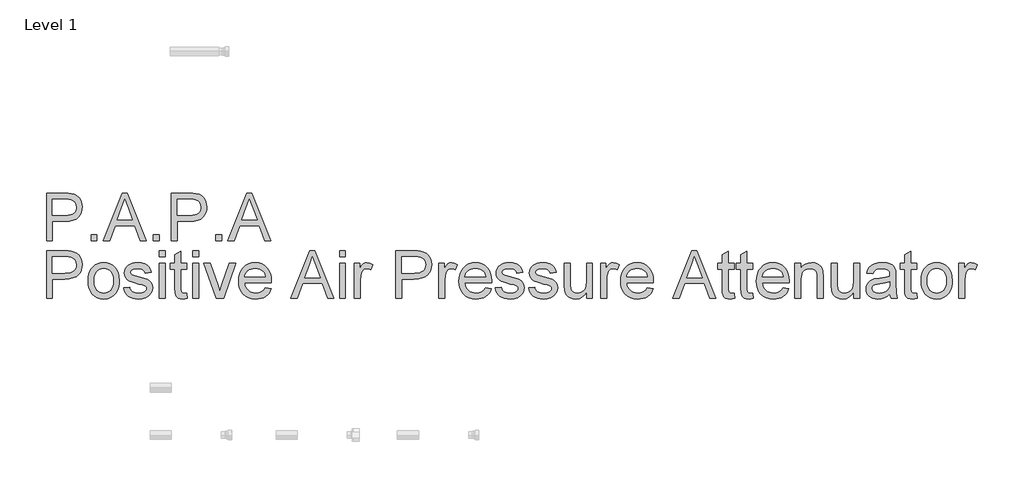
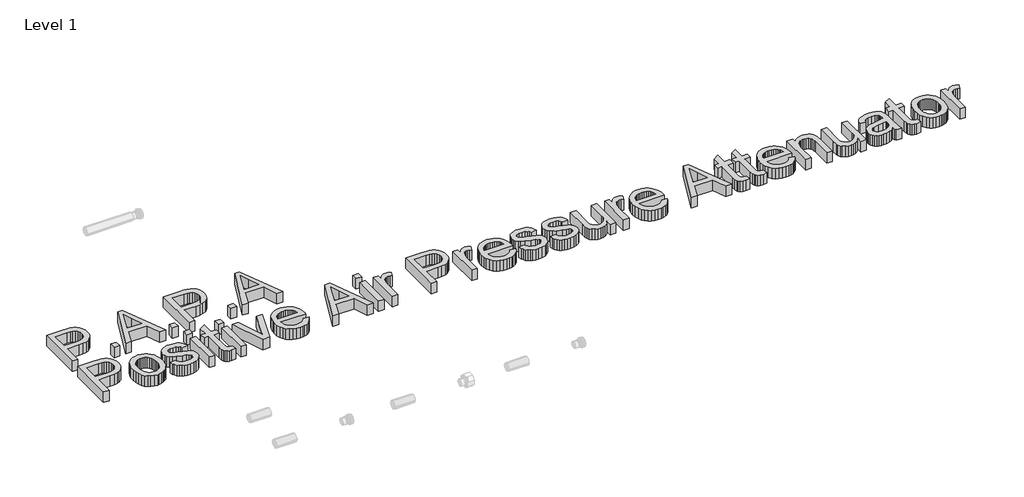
# One storey, part 25 of 29: 1 proxy.
"""IFC4 building model written with IfcOpenShell, lengths in millimetres."""

import ifcopenshell
import ifcopenshell.guid

model = None  # the IFC model being written
_history = None  # IfcOwnerHistory: only IFC2X3 demands one
_inside = {}  # id of a spatial element -> (the spatial element, [elements in it])
_under = {}  # id of a project, library or spatial element -> (it, [spatial elements below it])
_declared = {}  # id of a project -> (the project, [libraries it declares])
_typed = {}  # id of a type object -> (the type object, [elements of that type])
_made_of = {}  # id of a material, layer set ... -> (it, [elements and type objects made of it])


def new_model(schema):
    """Start an empty IFC model of exactly this schema.

    Asked for "IFC4X3", IfcOpenShell would pick the latest addendum, in which some entities
    have other attributes; the version numbers below select the first issue.
    IFC2X3 requires an IfcOwnerHistory on every rooted entity: one is made here for all.
    """
    global model, _history
    if schema == "IFC4X3":
        model = ifcopenshell.file(schema_version=(4, 3, 0, 0))
    else:
        model = ifcopenshell.file(schema=schema)
    _inside.clear()
    _under.clear()
    _declared.clear()
    _typed.clear()
    _made_of.clear()
    _history = None
    if model.schema == "IFC2X3":
        org = make("IfcOrganization", Name="unknown")
        user = make(
            "IfcPersonAndOrganization",
            ThePerson=make("IfcPerson", FamilyName="unknown"),
            TheOrganization=org,
        )
        app = make(
            "IfcApplication",
            ApplicationDeveloper=org,
            Version="unknown",
            ApplicationFullName="unknown",
            ApplicationIdentifier="unknown",
        )
        _history = make(
            "IfcOwnerHistory",
            OwningUser=user,
            OwningApplication=app,
            ChangeAction="ADDED",
            CreationDate=0,
        )
    return model


def make(cls, **values):
    """One entity of the class cls with the attributes given. An attribute that is None is left unset."""
    return model.create_entity(
        cls, **{name: value for name, value in values.items() if value is not None}
    )


def rooted(cls, **values):
    """An entity with a GlobalId (a new one), such as an element, a storey or a relation."""
    return make(cls, GlobalId=ifcopenshell.guid.new(), OwnerHistory=_history, **values)


def si_unit(unit_type, name, prefix=None):
    """IfcSIUnit, for example si_unit("LENGTHUNIT", "METRE", prefix="MILLI")."""
    return make("IfcSIUnit", UnitType=unit_type, Prefix=prefix, Name=name)


def assignment(units):
    """IfcUnitAssignment: the units of a project."""
    return None if units is None else make("IfcUnitAssignment", Units=units)


def point(xyz):
    """IfcCartesianPoint."""
    return None if xyz is None else make("IfcCartesianPoint", Coordinates=xyz)


def direction(xyz):
    """IfcDirection."""
    return None if xyz is None else make("IfcDirection", DirectionRatios=xyz)


def frame(location, z_axis=None, x_axis=None):
    """IfcAxis2Placement3D, a coordinate frame: its origin and axes. An axis left out is left unset."""
    return make(
        "IfcAxis2Placement3D",
        Location=point(location),
        Axis=direction(z_axis),
        RefDirection=direction(x_axis),
    )


def origin():
    """The frame at (0, 0, 0) with its axes left unset."""
    return frame((0.0, 0.0, 0.0))


def origin_with_axes():
    """The frame at (0, 0, 0) with the z axis (0, 0, 1) and the x axis (1, 0, 0) written out."""
    return frame((0.0, 0.0, 0.0), z_axis=(0.0, 0.0, 1.0), x_axis=(1.0, 0.0, 0.0))


def place(relative_to, where):
    """IfcLocalPlacement: puts the frame where relative to a parent placement (None: the world)."""
    return make(
        "IfcLocalPlacement", PlacementRelTo=relative_to, RelativePlacement=where
    )


def context(
    kind, dimensions, precision=None, world=None, true_north=None, identifier=None
):
    """IfcGeometricRepresentationContext, for example the 3D "Model" context."""
    return make(
        "IfcGeometricRepresentationContext",
        ContextIdentifier=identifier,
        ContextType=kind,
        CoordinateSpaceDimension=dimensions,
        Precision=precision,
        WorldCoordinateSystem=world,
        TrueNorth=true_north,
    )


def project(units=None, contexts=None):
    """IfcProject with its units and contexts."""
    return rooted(
        "IfcProject",
        Name="project",
        RepresentationContexts=contexts,
        UnitsInContext=assignment(units),
    )


def spatial(cls, under=None, at=None, **own):
    """A site, building, storey or space (cls), placed at a placement, below another one or the project."""
    s = rooted(cls, ObjectPlacement=at, **own)
    if under is not None:
        _under.setdefault(under.id(), (under, []))[1].append(s)
    return s


def polyline(points):
    """IfcPolyline through the points."""
    return make("IfcPolyline", Points=[point(p) for p in points])


def outline(outer, holes=None, kind="AREA"):
    """IfcArbitraryClosedProfileDef: a profile drawn as a closed curve; with holes, ...WithVoids."""
    if holes is None:
        return make("IfcArbitraryClosedProfileDef", ProfileType=kind, OuterCurve=outer)
    return make(
        "IfcArbitraryProfileDefWithVoids",
        ProfileType=kind,
        OuterCurve=outer,
        InnerCurves=holes,
    )


def extrude(swept, where, along, depth):
    """IfcExtrudedAreaSolid: the profile swept, set in the frame where, extruded along a direction by depth."""
    return make(
        "IfcExtrudedAreaSolid",
        SweptArea=swept,
        Position=where,
        ExtrudedDirection=direction(along),
        Depth=depth,
    )


def shape(context_of_items, identifier, shape_type, items):
    """IfcShapeRepresentation: the items that make up one representation, for example the "Body"."""
    return make(
        "IfcShapeRepresentation",
        ContextOfItems=context_of_items,
        RepresentationIdentifier=identifier,
        RepresentationType=shape_type,
        Items=items,
    )


def made_of(thing, what):
    """Note that an element or type object is made of a material, layer set ...; save() writes the relation."""
    if what is not None:
        _made_of.setdefault(what.id(), (what, []))[1].append(thing)
    return thing


def element(
    cls,
    number,
    at=None,
    inside=None,
    cuts=None,
    type_object=None,
    material=None,
    context=None,
    identifier="Body",
    shape_type=None,
    held_by="IfcProductDefinitionShape",
    body=None,
    shapes=None,
    **own,
):
    """One element of the class cls, such as IfcWall. Its Tag is "e" and its number.

    at: its placement. inside: the storey or other place that contains it. cuts: it is an
    opening in that element (IfcRelVoidsElement). A single representation is given by context,
    identifier, shape_type and body (its items); several are given by shapes. held_by: the class
    of the entity that holds the representations. save() writes the other relations.
    """
    e = rooted(cls, Tag="e%d" % number, ObjectPlacement=at, **own)
    if body is not None:
        shapes = [shape(context, identifier, shape_type, body)]
    if shapes is not None:
        e.Representation = make(held_by, Representations=shapes)
    if inside is not None:
        _inside.setdefault(inside.id(), (inside, []))[1].append(e)
    if cuts is not None:
        rooted(
            "IfcRelVoidsElement", RelatingBuildingElement=cuts, RelatedOpeningElement=e
        )
    if type_object is not None:
        _typed.setdefault(type_object.id(), (type_object, []))[1].append(e)
    return made_of(e, material)


def aggregate(whole, parts):
    """IfcRelAggregates: a whole, such as a stair, and the parts it consists of."""
    return rooted("IfcRelAggregates", RelatingObject=whole, RelatedObjects=parts)


def save(model, path):
    """Write the relations noted so far, then the file.

    IfcRelAggregates (storeys below a building ...), IfcRelContainedInSpatialStructure (elements
    in a storey), IfcRelDefinesByType, IfcRelAssociatesMaterial and IfcRelDeclares: one each for
    every whole, place, type object, material and project.
    """
    for whole, parts in _under.values():
        aggregate(whole, parts)
    for where, things in _inside.values():
        rooted(
            "IfcRelContainedInSpatialStructure",
            RelatedElements=things,
            RelatingStructure=where,
        )
    for kind, things in _typed.values():
        rooted("IfcRelDefinesByType", RelatedObjects=things, RelatingType=kind)
    for what, things in _made_of.values():
        rooted("IfcRelAssociatesMaterial", RelatedObjects=things, RelatingMaterial=what)
    for by, libraries in _declared.values():
        rooted("IfcRelDeclares", RelatingContext=by, RelatedDefinitions=libraries)
    model.write(path)


model = new_model("IFC4")

# Units and contexts
model_context = context("Model", 3, world=origin())
ifc_project = project(units=[si_unit("LENGTHUNIT", "METRE", prefix="MILLI")], contexts=[model_context])

# Site, building, storey
site = spatial("IfcSite", under=ifc_project)
building = spatial("IfcBuilding", under=site)
storey = spatial("IfcBuildingStorey", under=building, Name="Level 1", Elevation=0.0)

# Proxy
placement = place(None, origin())
element("IfcBuildingElementProxy", 1, Name="600mm Arial", ObjectType="600mm Arial", at=placement, inside=storey, context=model_context, shape_type="SweptSolid", body=[
    extrude(outline(polyline([(41857.7902081, 14103.361808), (41857.7902081, 14706.0996689), (42081.1681556, 14706.0996689), (42133.1866697, 14704.6649291), (42171.225668, 14700.3607098), (42211.3799877, 14689.6369496), (42244.434185, 14672.1809489), (42271.0504474, 14647.2017615), (42291.8909624, 14613.9084409), (42305.3554434, 14574.6370379), (42309.8436038, 14531.7236032), (42306.8131758, 14494.7238715), (42297.721892, 14460.6855899), (42282.5697523, 14429.6087584), (42261.3567568, 14401.4933769), (42232.2342983, 14378.1880525), (42193.35377, 14361.5413922), (42144.7151717, 14351.553396), (42086.3185035, 14348.224064), (41933.1324407, 14348.224064), (41933.1324407, 14103.361808), (41857.7902081, 14103.361808)]), holes=[polyline([(41933.1324407, 14423.5662966), (42090.7330874, 14423.5662966), (42126.969464, 14425.295342), (42157.5404578, 14430.4824781), (42182.4460688, 14439.127705), (42201.6862972, 14451.2310226), (42216.042892, 14466.4705343), (42226.2976027, 14484.5243432), (42232.450429, 14505.3924494), (42234.5013711, 14529.0748528), (42229.6637229, 14562.9199964), (42215.1507782, 14591.4676392), (42192.7651588, 14612.9519477), (42164.3094865, 14625.6070883), (42135.2468088, 14629.4698493), (42088.9672539, 14630.7574363), (41933.1324407, 14630.7574363), (41933.1324407, 14423.5662966)])]), origin_with_axes(), (0.0, 0.0, 1.0), 150.0),
    extrude(outline(polyline([(42422.8569527, 14103.361808), (42422.8569527, 14178.7040406), (42498.1991853, 14178.7040406), (42498.1991853, 14103.361808), (42422.8569527, 14103.361808)])), origin_with_axes(), (0.0, 0.0, 1.0), 150.0),
    extrude(outline(polyline([(42578.6917658, 14103.361808), (42819.2865907, 14706.0996689), (42883.4452106, 14706.0996689), (43124.0400355, 14103.361808), (43044.4303717, 14103.361808), (42975.4157094, 14291.7173895), (42727.1689391, 14291.7173895), (42658.3014296, 14103.361808), (42578.6917658, 14103.361808)]), holes=[polyline([(42754.8336651, 14367.0596221), (42947.8981362, 14367.0596221), (42893.5987537, 14515.2424898), (42851.3659007, 14630.7574363), (42813.8419371, 14528.191936), (42754.8336651, 14367.0596221)])]), origin_with_axes(), (0.0, 0.0, 1.0), 150.0),
    extrude(outline(polyline([(43213.9503951, 14103.361808), (43213.9503951, 14178.7040406), (43289.2926277, 14178.7040406), (43289.2926277, 14103.361808), (43213.9503951, 14103.361808)])), origin_with_axes(), (0.0, 0.0, 1.0), 150.0),
    extrude(outline(polyline([(43439.9770929, 14103.361808), (43439.9770929, 14706.0996689), (43663.3550404, 14706.0996689), (43715.3735545, 14704.6649291), (43753.4125528, 14700.3607098), (43793.5668726, 14689.6369496), (43826.6210699, 14672.1809489), (43853.2373322, 14647.2017615), (43874.0778472, 14613.9084409), (43887.5423283, 14574.6370379), (43892.0304886, 14531.7236032), (43889.0000607, 14494.7238715), (43879.9087769, 14460.6855899), (43864.7566372, 14429.6087584), (43843.5436416, 14401.4933769), (43814.4211832, 14378.1880525), (43775.5406548, 14361.5413922), (43726.9020566, 14351.553396), (43668.5053883, 14348.224064), (43515.3193256, 14348.224064), (43515.3193256, 14103.361808), (43439.9770929, 14103.361808)]), holes=[polyline([(43515.3193256, 14423.5662966), (43672.9199723, 14423.5662966), (43709.1563488, 14425.295342), (43739.7273426, 14430.4824781), (43764.6329537, 14439.127705), (43783.873182, 14451.2310226), (43798.2297769, 14466.4705343), (43808.4844875, 14484.5243432), (43814.6373139, 14505.3924494), (43816.688256, 14529.0748528), (43811.8506078, 14562.9199964), (43797.3376631, 14591.4676392), (43774.9520436, 14612.9519477), (43746.4963713, 14625.6070883), (43717.4336937, 14629.4698493), (43671.1541387, 14630.7574363), (43515.3193256, 14630.7574363), (43515.3193256, 14423.5662966)])]), origin_with_axes(), (0.0, 0.0, 1.0), 150.0),
    extrude(outline(polyline([(44005.0438375, 14103.361808), (44005.0438375, 14178.7040406), (44080.3860701, 14178.7040406), (44080.3860701, 14103.361808), (44005.0438375, 14103.361808)])), origin_with_axes(), (0.0, 0.0, 1.0), 150.0),
    extrude(outline(polyline([(44160.8786507, 14103.361808), (44401.4734755, 14706.0996689), (44465.6320955, 14706.0996689), (44706.2269203, 14103.361808), (44626.6172566, 14103.361808), (44557.6025943, 14291.7173895), (44309.3558239, 14291.7173895), (44240.4883144, 14103.361808), (44160.8786507, 14103.361808)]), holes=[polyline([(44337.02055, 14367.0596221), (44530.085021, 14367.0596221), (44475.7856386, 14515.2424898), (44433.5527855, 14630.7574363), (44396.028822, 14528.191936), (44337.02055, 14367.0596221)])]), origin_with_axes(), (0.0, 0.0, 1.0), 150.0),
    extrude(outline(polyline([(41857.7902081, 13371.5129009), (41857.7902081, 13974.2507618), (42081.1681556, 13974.2507618), (42133.1866697, 13972.816022), (42171.225668, 13968.5118027), (42211.3799877, 13957.7880425), (42244.434185, 13940.3320419), (42271.0504474, 13915.3528544), (42291.8909624, 13882.0595338), (42305.3554434, 13842.7881308), (42309.8436038, 13799.8746961), (42306.8131758, 13762.8749644), (42297.721892, 13728.8366828), (42282.5697523, 13697.7598513), (42261.3567568, 13669.6444698), (42232.2342983, 13646.3391454), (42193.35377, 13629.6924851), (42144.7151717, 13619.704489), (42086.3185035, 13616.3751569), (41933.1324407, 13616.3751569), (41933.1324407, 13371.5129009), (41857.7902081, 13371.5129009)]), holes=[polyline([(41933.1324407, 13691.7173895), (42090.7330874, 13691.7173895), (42126.969464, 13693.4464349), (42157.5404578, 13698.633571), (42182.4460688, 13707.2787979), (42201.6862972, 13719.3821156), (42216.042892, 13734.6216272), (42226.2976027, 13752.6754361), (42232.450429, 13773.5435423), (42234.5013711, 13797.2259457), (42229.6637229, 13831.0710893), (42215.1507782, 13859.6187321), (42192.7651588, 13881.1030406), (42164.3094865, 13893.7581813), (42135.2468088, 13897.6209422), (42088.9672539, 13898.9085292), (41933.1324407, 13898.9085292), (41933.1324407, 13691.7173895)])]), origin_with_axes(), (0.0, 0.0, 1.0), 150.0),
    extrude(outline(polyline([(42385.1858364, 13592.8307092), (42389.2601295, 13650.1559211), (42401.4830088, 13699.553276), (42421.8544742, 13741.0227739), (42450.3745259, 13774.5644148), (42479.0877156, 13796.0027381), (42510.7807495, 13811.3158261), (42545.4536276, 13820.503679), (42583.1063498, 13823.5662966), (42624.6724167, 13819.8368929), (42662.256161, 13808.6486817), (42695.8575828, 13790.0016631), (42725.4766819, 13763.895837), (42749.6511275, 13731.2141202), (42766.9185887, 13692.8394296), (42777.2790654, 13648.7717651), (42780.7325576, 13599.0111267), (42779.2058473, 13558.682063), (42774.6257165, 13522.8963419), (42766.9921651, 13491.6539635), (42756.3051931, 13464.9549277), (42742.6981578, 13441.8933251), (42726.3044164, 13421.5632464), (42707.1239689, 13403.9646914), (42685.1568152, 13389.0976603), (42661.2582811, 13377.2840497), (42636.2836922, 13368.8457564), (42610.2330484, 13363.7827805), (42583.1063498, 13362.0951218), (42540.9332776, 13365.81073), (42503.0000453, 13376.9575544), (42469.3066531, 13395.5355952), (42439.8531009, 13421.5448523), (42415.9361726, 13454.5438672), (42398.8526525, 13494.0911817), (42388.6025404, 13540.1867957), (42385.1858364, 13592.8307092)]), holes=[polyline([(42460.528069, 13592.977862), (42462.7077698, 13556.4333843), (42469.2468723, 13524.7909342), (42480.1453764, 13498.0505117), (42495.4032821, 13476.2121167), (42513.9629288, 13459.2481582), (42534.7666556, 13447.131045), (42557.8144626, 13439.8607771), (42583.1063498, 13437.4373544), (42608.2694782, 13439.8745727), (42631.2253147, 13447.1862273), (42651.9738593, 13459.3723184), (42670.5151118, 13476.4328459), (42685.7730176, 13498.4873715), (42696.6715217, 13525.6554569), (42703.2106241, 13557.937102), (42705.390325, 13595.3323068), (42703.1968286, 13630.7179562), (42696.6163394, 13661.5326718), (42685.6488574, 13687.7764536), (42670.2943826, 13709.4493017), (42651.6841522, 13726.4132602), (42630.9494032, 13738.5303734), (42608.0901358, 13745.8006413), (42583.1063498, 13748.224064), (42557.8144626, 13745.8098384), (42534.7666556, 13738.5671616), (42513.9629288, 13726.4960336), (42495.4032821, 13709.5964545), (42480.1453764, 13687.8224389), (42469.2468723, 13661.1280016), (42462.7077698, 13629.5131427), (42460.528069, 13592.977862)])]), origin_with_axes(), (0.0, 0.0, 1.0), 150.0),
    extrude(outline(polyline([(42837.239232, 13503.361808), (42912.5814647, 13512.7795871), (42917.1340043, 13495.5994979), (42924.4640531, 13480.5531243), (42934.5716109, 13467.6404663), (42947.4566778, 13456.8615238), (42963.1560419, 13448.3634497), (42981.7064915, 13442.2933968), (43027.3606472, 13437.4373544), (43072.4629798, 13441.8887266), (43089.9925568, 13447.4529418), (43104.1744077, 13455.242843), (43122.9363895, 13474.593436), (43127.6268849, 13485.4275607), (43129.1903834, 13497.0342377), (43127.6176879, 13507.2061748), (43122.8996013, 13516.2376778), (43104.0272549, 13530.8793812), (43075.8107059, 13540.4443131), (43026.4777304, 13552.3636897), (42957.7205855, 13572.2477116), (42913.022923, 13589.2254657), (42884.3097333, 13607.7483241), (42863.5060065, 13632.2676591), (42850.86926, 13661.2199721), (42846.6570111, 13693.0417647), (42850.0415255, 13722.233201), (42860.1950685, 13749.1805572), (42876.1979353, 13772.8169754), (42897.1304209, 13792.0755978), (42917.9341477, 13804.1973095), (42945.0286566, 13814.3692467), (42976.3538085, 13821.2670341), (43009.8494642, 13823.5662966), (43058.8881341, 13819.8690825), (43101.5256574, 13808.7774404), (43135.8122593, 13791.376622), (43159.7981654, 13768.7518793), (43175.6906676, 13739.2293492), (43185.6970579, 13701.1351686), (43110.3548253, 13691.7173895), (43100.8450757, 13715.4273841), (43082.0279116, 13733.288055), (43053.7193921, 13744.4900617), (43015.7355761, 13748.224064), (42972.4726535, 13744.6556086), (42943.630705, 13733.9502426), (42927.4071091, 13718.4991988), (42921.9992437, 13700.6937102), (42924.2433239, 13689.1054273), (42930.9755644, 13678.7679433), (42942.4902709, 13669.5341052), (42959.0817488, 13662.1396771), (43023.9761328, 13646.1000221), (43134.5614605, 13610.6361978), (43163.771291, 13593.6768378), (43185.9177871, 13570.4634839), (43199.8789088, 13540.9225597), (43204.532616, 13504.9804888), (43199.0695684, 13467.8244073), (43182.6804255, 13432.8756177), (43155.9905868, 13402.874841), (43119.6254515, 13380.562798), (43075.7003413, 13366.7120409), (43026.3305776, 13362.0951218), (42985.7807846, 13364.3208079), (42950.3629456, 13370.9978661), (42920.0770603, 13382.1262965), (42894.9231289, 13397.706099), (42874.3769195, 13417.6636972), (42857.9142002, 13441.9255148), (42845.534971, 13470.4915517), (42837.239232, 13503.361808)])), origin_with_axes(), (0.0, 0.0, 1.0), 150.0),
    extrude(outline(polyline([(43289.2926277, 13371.5129009), (43289.2926277, 13814.1485175), (43364.6348603, 13814.1485175), (43364.6348603, 13371.5129009), (43289.2926277, 13371.5129009)])), origin_with_axes(), (0.0, 0.0, 1.0), 150.0),
    extrude(outline(polyline([(43289.2926277, 13898.9085292), (43289.2926277, 13974.2507618), (43364.6348603, 13974.2507618), (43364.6348603, 13898.9085292), (43289.2926277, 13898.9085292)])), origin_with_axes(), (0.0, 0.0, 1.0), 150.0),
    extrude(outline(polyline([(43637.7504535, 13434.3471457), (43647.1682326, 13369.3056089), (43590.808711, 13362.0951218), (43554.6459108, 13365.2221188), (43527.6801606, 13374.6031097), (43508.6238732, 13389.0608721), (43496.1894618, 13407.4181836), (43489.3468567, 13438.9456706), (43487.0659883, 13492.9139593), (43487.0659883, 13738.8062849), (43430.5593139, 13738.8062849), (43430.5593139, 13814.1485175), (43487.0659883, 13814.1485175), (43487.0659883, 13921.7172129), (43562.4082209, 13966.0102051), (43562.4082209, 13814.1485175), (43637.7504535, 13814.1485175), (43637.7504535, 13738.8062849), (43562.4082209, 13738.8062849), (43562.4082209, 13495.1212513), (43566.3813465, 13456.2729126), (43579.2572163, 13442.514126), (43590.1281293, 13438.7065473), (43604.9353796, 13437.4373544), (43637.7504535, 13434.3471457)])), origin_with_axes(), (0.0, 0.0, 1.0), 150.0),
    extrude(outline(polyline([(43713.0926862, 13898.9085292), (43713.0926862, 13974.2507618), (43788.4349188, 13974.2507618), (43788.4349188, 13898.9085292), (43713.0926862, 13898.9085292)])), origin_with_axes(), (0.0, 0.0, 1.0), 150.0),
    extrude(outline(polyline([(43713.0926862, 13371.5129009), (43713.0926862, 13814.1485175), (43788.4349188, 13814.1485175), (43788.4349188, 13371.5129009), (43713.0926862, 13371.5129009)])), origin_with_axes(), (0.0, 0.0, 1.0), 150.0),
    extrude(outline(polyline([(44010.0470327, 13371.5129009), (43854.3593723, 13814.1485175), (43934.1161889, 13814.1485175), (44028.4411324, 13548.9791754), (44056.8416225, 13459.8045798), (44084.6535013, 13543.9759803), (44179.567056, 13814.1485175), (44259.3238726, 13814.1485175), (44105.5491986, 13371.5129009), (44010.0470327, 13371.5129009)])), origin_with_axes(), (0.0, 0.0, 1.0), 150.0),
    extrude(outline(polyline([(44635.1521189, 13503.361808), (44709.0228235, 13493.9440289), (44697.6966566, 13464.3571194), (44682.4065612, 13438.283483), (44663.1525372, 13415.7231197), (44639.9345848, 13396.6760294), (44612.9918272, 13381.5468823), (44582.5633877, 13370.7403487), (44548.6492662, 13364.2564286), (44511.2494629, 13362.0951218), (44464.5008584, 13365.8245256), (44422.8474195, 13377.0127367), (44386.2891462, 13395.6597554), (44354.8260385, 13421.7655815), (44329.5249543, 13454.603648), (44311.4527513, 13493.4473882), (44300.6094295, 13538.296802), (44296.9949889, 13589.1518893), (44300.6462177, 13641.7314234), (44311.5999041, 13688.0753578), (44329.8560481, 13728.1836923), (44355.4146497, 13762.056427), (44386.7949839, 13788.9669949), (44422.5163257, 13808.1888292), (44462.5786749, 13819.7219297), (44506.9820318, 13823.5662966), (44549.9552473, 13819.7311268), (44588.8173816, 13808.2256174), (44623.5684345, 13789.0497684), (44654.2084062, 13762.2035798), (44679.2197834, 13728.4044215), (44697.0850528, 13688.3696634), (44707.8042144, 13642.0993054), (44711.3772683, 13589.5933477), (44710.9358099, 13569.2862615), (44372.3372215, 13569.2862615), (44376.7012217, 13539.2211055), (44385.3786382, 13512.8899517), (44398.3694712, 13490.2928001), (44415.6737205, 13471.4296508), (44436.3348931, 13456.5580211), (44459.3964957, 13445.9354285), (44484.8585283, 13439.561873), (44512.7209909, 13437.4373544), (44552.8201284, 13441.3736918), (44586.5916955, 13453.1827038), (44614.0356923, 13473.6001546), (44635.1521189, 13503.361808)]), holes=[polyline([(44372.3372215, 13644.6284941), (44636.0350357, 13644.6284941), (44625.8447044, 13684.433326), (44617.0799159, 13700.0867049), (44605.8687121, 13712.9073924), (44585.3225026, 13728.3584362), (44561.9436018, 13739.3948961), (44535.7320097, 13746.016772), (44506.6877262, 13748.224064), (44480.195624, 13746.4628289), (44455.9016167, 13741.1791238), (44433.8057044, 13732.3729485), (44413.907887, 13720.0443031), (44397.2106429, 13704.7634048), (44384.7164507, 13687.1004705), (44376.4253102, 13667.0555003), (44372.3372215, 13644.6284941)])]), origin_with_axes(), (0.0, 0.0, 1.0), 150.0),
    extrude(outline(polyline([(44961.3898722, 13371.5129009), (45201.984697, 13974.2507618), (45266.143317, 13974.2507618), (45506.7381418, 13371.5129009), (45427.1284781, 13371.5129009), (45358.1138158, 13559.8684824), (45109.8670454, 13559.8684824), (45040.9995359, 13371.5129009), (44961.3898722, 13371.5129009)]), holes=[polyline([(45137.5317715, 13635.2107151), (45330.5962426, 13635.2107151), (45276.2968601, 13783.3935827), (45234.064007, 13898.9085292), (45196.5400435, 13796.3430289), (45137.5317715, 13635.2107151)])]), origin_with_axes(), (0.0, 0.0, 1.0), 150.0),
    extrude(outline(polyline([(45577.8129433, 13898.9085292), (45577.8129433, 13974.2507618), (45653.1551759, 13974.2507618), (45653.1551759, 13898.9085292), (45577.8129433, 13898.9085292)])), origin_with_axes(), (0.0, 0.0, 1.0), 150.0),
    extrude(outline(polyline([(45577.8129433, 13371.5129009), (45577.8129433, 13814.1485175), (45653.1551759, 13814.1485175), (45653.1551759, 13371.5129009), (45577.8129433, 13371.5129009)])), origin_with_axes(), (0.0, 0.0, 1.0), 150.0),
    extrude(outline(polyline([(45766.1685248, 13371.5129009), (45766.1685248, 13814.1485175), (45832.0929784, 13814.1485175), (45832.0929784, 13748.6655224), (45856.4467665, 13786.6309443), (45878.8875682, 13808.9981696), (45901.4019463, 13819.9242648), (45925.9764635, 13823.5662966), (45963.5004271, 13817.7537611), (46001.6130018, 13800.3161545), (45976.4498733, 13732.7730202), (45949.9623696, 13744.361303), (45923.474866, 13748.224064), (45900.978882, 13744.5084558), (45880.8741309, 13733.3616314), (45864.6321409, 13715.6297192), (45853.7244397, 13692.1588479), (45844.564178, 13650.0731477), (45841.5107575, 13604.1614747), (45841.5107575, 13371.5129009), (45766.1685248, 13371.5129009)])), origin_with_axes(), (0.0, 0.0, 1.0), 150.0),
    extrude(outline(polyline([(46293.5641531, 13371.5129009), (46293.5641531, 13974.2507618), (46516.9421006, 13974.2507618), (46568.9606147, 13972.816022), (46606.999613, 13968.5118027), (46647.1539328, 13957.7880425), (46680.2081301, 13940.3320419), (46706.8243924, 13915.3528544), (46727.6649074, 13882.0595338), (46741.1293885, 13842.7881308), (46745.6175488, 13799.8746961), (46742.5871209, 13762.8749644), (46733.4958371, 13728.8366828), (46718.3436974, 13697.7598513), (46697.1307018, 13669.6444698), (46668.0082434, 13646.3391454), (46629.127715, 13629.6924851), (46580.4891167, 13619.704489), (46522.0924485, 13616.3751569), (46368.9063857, 13616.3751569), (46368.9063857, 13371.5129009), (46293.5641531, 13371.5129009)]), holes=[polyline([(46368.9063857, 13691.7173895), (46526.5070325, 13691.7173895), (46562.743409, 13693.4464349), (46593.3144028, 13698.633571), (46618.2200139, 13707.2787979), (46637.4602422, 13719.3821156), (46651.8168371, 13734.6216272), (46662.0715477, 13752.6754361), (46668.2243741, 13773.5435423), (46670.2753162, 13797.2259457), (46665.437668, 13831.0710893), (46650.9247232, 13859.6187321), (46628.5391038, 13881.1030406), (46600.0834315, 13893.7581813), (46571.0207539, 13897.6209422), (46524.7411989, 13898.9085292), (46368.9063857, 13898.9085292), (46368.9063857, 13691.7173895)])]), origin_with_axes(), (0.0, 0.0, 1.0), 150.0),
    extrude(outline(polyline([(46839.7953396, 13371.5129009), (46839.7953396, 13814.1485175), (46905.7197931, 13814.1485175), (46905.7197931, 13748.6655224), (46930.0735812, 13786.6309443), (46952.5143829, 13808.9981696), (46975.028761, 13819.9242648), (46999.6032783, 13823.5662966), (47037.1272418, 13817.7537611), (47075.2398165, 13800.3161545), (47050.076688, 13732.7730202), (47023.5891844, 13744.361303), (46997.1016807, 13748.224064), (46974.6056967, 13744.5084558), (46954.5009457, 13733.3616314), (46938.2589556, 13715.6297192), (46927.3512544, 13692.1588479), (46918.1909927, 13650.0731477), (46915.1375722, 13604.1614747), (46915.1375722, 13371.5129009), (46839.7953396, 13371.5129009)])), origin_with_axes(), (0.0, 0.0, 1.0), 150.0),
    extrude(outline(polyline([(47432.2325046, 13503.361808), (47506.1032092, 13493.9440289), (47494.7770423, 13464.3571194), (47479.4869469, 13438.283483), (47460.232923, 13415.7231197), (47437.0149705, 13396.6760294), (47410.0722129, 13381.5468823), (47379.6437734, 13370.7403487), (47345.729652, 13364.2564286), (47308.3298486, 13362.0951218), (47261.5812441, 13365.8245256), (47219.9278052, 13377.0127367), (47183.3695319, 13395.6597554), (47151.9064243, 13421.7655815), (47126.6053401, 13454.603648), (47108.533137, 13493.4473882), (47097.6898152, 13538.296802), (47094.0753746, 13589.1518893), (47097.7266034, 13641.7314234), (47108.6802898, 13688.0753578), (47126.9364339, 13728.1836923), (47152.4950355, 13762.056427), (47183.8753697, 13788.9669949), (47219.5967114, 13808.1888292), (47259.6590607, 13819.7219297), (47304.0624175, 13823.5662966), (47347.035633, 13819.7311268), (47385.8977673, 13808.2256174), (47420.6488203, 13789.0497684), (47451.2887919, 13762.2035798), (47476.3001691, 13728.4044215), (47494.1654385, 13688.3696634), (47504.8846001, 13642.0993054), (47508.457654, 13589.5933477), (47508.0161956, 13569.2862615), (47169.4176072, 13569.2862615), (47173.7816074, 13539.2211055), (47182.459024, 13512.8899517), (47195.4498569, 13490.2928001), (47212.7541063, 13471.4296508), (47233.4152788, 13456.5580211), (47256.4768814, 13445.9354285), (47281.938914, 13439.561873), (47309.8013766, 13437.4373544), (47349.9005141, 13441.3736918), (47383.6720812, 13453.1827038), (47411.1160781, 13473.6001546), (47432.2325046, 13503.361808)]), holes=[polyline([(47169.4176072, 13644.6284941), (47433.1154214, 13644.6284941), (47422.9250901, 13684.433326), (47414.1603016, 13700.0867049), (47402.9490978, 13712.9073924), (47382.4028884, 13728.3584362), (47359.0239876, 13739.3948961), (47332.8123954, 13746.016772), (47303.7681119, 13748.224064), (47277.2760097, 13746.4628289), (47252.9820024, 13741.1791238), (47230.8860901, 13732.3729485), (47210.9882727, 13720.0443031), (47194.2910286, 13704.7634048), (47181.7968364, 13687.1004705), (47173.5056959, 13667.0555003), (47169.4176072, 13644.6284941)])]), origin_with_axes(), (0.0, 0.0, 1.0), 150.0),
    extrude(outline(polyline([(47555.5465494, 13503.361808), (47630.888782, 13512.7795871), (47635.4413217, 13495.5994979), (47642.7713704, 13480.5531243), (47652.8789283, 13467.6404663), (47665.7639951, 13456.8615238), (47681.4633593, 13448.3634497), (47700.0138089, 13442.2933968), (47745.6679645, 13437.4373544), (47790.7702971, 13441.8887266), (47808.2998742, 13447.4529418), (47822.4817251, 13455.242843), (47841.2437068, 13474.593436), (47845.9342023, 13485.4275607), (47847.4977008, 13497.0342377), (47845.9250052, 13507.2061748), (47841.2069186, 13516.2376778), (47822.3345723, 13530.8793812), (47794.1180233, 13540.4443131), (47744.7850477, 13552.3636897), (47676.0279028, 13572.2477116), (47631.3302404, 13589.2254657), (47602.6170507, 13607.7483241), (47581.8133238, 13632.2676591), (47569.1765773, 13661.2199721), (47564.9643285, 13693.0417647), (47568.3488428, 13722.233201), (47578.5023859, 13749.1805572), (47594.5052527, 13772.8169754), (47615.4377382, 13792.0755978), (47636.241465, 13804.1973095), (47663.335974, 13814.3692467), (47694.6611259, 13821.2670341), (47728.1567815, 13823.5662966), (47777.1954515, 13819.8690825), (47819.8329747, 13808.7774404), (47854.1195767, 13791.376622), (47878.1054828, 13768.7518793), (47893.9979849, 13739.2293492), (47904.0043752, 13701.1351686), (47828.6621426, 13691.7173895), (47819.152393, 13715.4273841), (47800.335229, 13733.288055), (47772.0267094, 13744.4900617), (47734.0428934, 13748.224064), (47690.7799708, 13744.6556086), (47661.9380224, 13733.9502426), (47645.7144264, 13718.4991988), (47640.3065611, 13700.6937102), (47642.5506412, 13689.1054273), (47649.2828818, 13678.7679433), (47660.7975882, 13669.5341052), (47677.3890662, 13662.1396771), (47742.2834501, 13646.1000221), (47852.8687779, 13610.6361978), (47882.0786083, 13593.6768378), (47904.2251044, 13570.4634839), (47918.1862261, 13540.9225597), (47922.8399334, 13504.9804888), (47917.3768857, 13467.8244073), (47900.9877429, 13432.8756177), (47874.2979041, 13402.874841), (47837.9327689, 13380.562798), (47794.0076587, 13366.7120409), (47744.6378949, 13362.0951218), (47704.088102, 13364.3208079), (47668.6702629, 13370.9978661), (47638.3843776, 13382.1262965), (47613.2304462, 13397.706099), (47592.6842368, 13417.6636972), (47576.2215175, 13441.9255148), (47563.8422884, 13470.4915517), (47555.5465494, 13503.361808)])), origin_with_axes(), (0.0, 0.0, 1.0), 150.0),
    extrude(outline(polyline([(47979.3466078, 13503.361808), (48054.6888404, 13512.7795871), (48059.2413801, 13495.5994979), (48066.5714289, 13480.5531243), (48076.6789867, 13467.6404663), (48089.5640536, 13456.8615238), (48105.2634177, 13448.3634497), (48123.8138673, 13442.2933968), (48169.4680229, 13437.4373544), (48214.5703555, 13441.8887266), (48232.0999326, 13447.4529418), (48246.2817835, 13455.242843), (48265.0437653, 13474.593436), (48269.7342607, 13485.4275607), (48271.2977592, 13497.0342377), (48269.7250637, 13507.2061748), (48265.0069771, 13516.2376778), (48246.1346307, 13530.8793812), (48217.9180817, 13540.4443131), (48168.5851061, 13552.3636897), (48099.8279612, 13572.2477116), (48055.1302988, 13589.2254657), (48026.4171091, 13607.7483241), (48005.6133823, 13632.2676591), (47992.9766357, 13661.2199721), (47988.7643869, 13693.0417647), (47992.1489013, 13722.233201), (48002.3024443, 13749.1805572), (48018.3053111, 13772.8169754), (48039.2377966, 13792.0755978), (48060.0415235, 13804.1973095), (48087.1360324, 13814.3692467), (48118.4611843, 13821.2670341), (48151.95684, 13823.5662966), (48200.9955099, 13819.8690825), (48243.6330332, 13808.7774404), (48277.9196351, 13791.376622), (48301.9055412, 13768.7518793), (48317.7980434, 13739.2293492), (48327.8044337, 13701.1351686), (48252.462201, 13691.7173895), (48242.9524515, 13715.4273841), (48224.1352874, 13733.288055), (48195.8267679, 13744.4900617), (48157.8429519, 13748.224064), (48114.5800293, 13744.6556086), (48085.7380808, 13733.9502426), (48069.5144848, 13718.4991988), (48064.1066195, 13700.6937102), (48066.3506997, 13689.1054273), (48073.0829402, 13678.7679433), (48084.5976466, 13669.5341052), (48101.1891246, 13662.1396771), (48166.0835086, 13646.1000221), (48276.6688363, 13610.6361978), (48305.8786667, 13593.6768378), (48328.0251629, 13570.4634839), (48341.9862846, 13540.9225597), (48346.6399918, 13504.9804888), (48341.1769442, 13467.8244073), (48324.7878013, 13432.8756177), (48298.0979625, 13402.874841), (48261.7328273, 13380.562798), (48217.8077171, 13366.7120409), (48168.4379533, 13362.0951218), (48127.8881604, 13364.3208079), (48092.4703213, 13370.9978661), (48062.1844361, 13382.1262965), (48037.0305047, 13397.706099), (48016.4842952, 13417.6636972), (48000.021576, 13441.9255148), (47987.6423468, 13470.4915517), (47979.3466078, 13503.361808)])), origin_with_axes(), (0.0, 0.0, 1.0), 150.0),
    extrude(outline(polyline([(48713.9333758, 13371.5129009), (48713.9333758, 13447.5908975), (48686.67332, 13410.1864957), (48654.9251038, 13383.4690658), (48618.6887272, 13367.4386078), (48577.9641904, 13362.0951218), (48541.2679614, 13365.8475182), (48507.1101181, 13377.1047072), (48478.4521107, 13394.027279), (48458.2553891, 13414.7758235), (48444.6621494, 13439.9757402), (48435.8145874, 13470.2524284), (48431.4000035, 13540.2971603), (48431.4000035, 13814.1485175), (48506.7422361, 13814.1485175), (48506.7422361, 13575.7609846), (48507.8826703, 13528.0834781), (48511.3039729, 13498.947224), (48522.2852504, 13473.3242431), (48541.1024145, 13453.8448914), (48566.5046662, 13441.5392387), (48597.2412069, 13437.4373544), (48629.7435812, 13441.6312092), (48660.1490281, 13454.2127734), (48685.2201861, 13474.0232189), (48701.7196936, 13499.9037172), (48710.8799552, 13535.3491475), (48713.9333758, 13583.8543885), (48713.9333758, 13814.1485175), (48789.2756084, 13814.1485175), (48789.2756084, 13371.5129009), (48713.9333758, 13371.5129009)])), origin_with_axes(), (0.0, 0.0, 1.0), 150.0),
    extrude(outline(polyline([(48892.8711782, 13371.5129009), (48892.8711782, 13814.1485175), (48958.7956318, 13814.1485175), (48958.7956318, 13748.6655224), (48983.1494199, 13786.6309443), (49005.5902216, 13808.9981696), (49028.1045997, 13819.9242648), (49052.679117, 13823.5662966), (49090.2030805, 13817.7537611), (49128.3156552, 13800.3161545), (49103.1525267, 13732.7730202), (49076.665023, 13744.361303), (49050.1775194, 13748.224064), (49027.6815354, 13744.5084558), (49007.5767843, 13733.3616314), (48991.3347943, 13715.6297192), (48980.4270931, 13692.1588479), (48971.2668314, 13650.0731477), (48968.2134109, 13604.1614747), (48968.2134109, 13371.5129009), (48892.8711782, 13371.5129009)])), origin_with_axes(), (0.0, 0.0, 1.0), 150.0),
    extrude(outline(polyline([(49485.3083433, 13503.361808), (49559.1790479, 13493.9440289), (49547.852881, 13464.3571194), (49532.5627856, 13438.283483), (49513.3087616, 13415.7231197), (49490.0908092, 13396.6760294), (49463.1480516, 13381.5468823), (49432.7196121, 13370.7403487), (49398.8054906, 13364.2564286), (49361.4056873, 13362.0951218), (49314.6570828, 13365.8245256), (49273.0036439, 13377.0127367), (49236.4453706, 13395.6597554), (49204.982263, 13421.7655815), (49179.6811787, 13454.603648), (49161.6089757, 13493.4473882), (49150.7656539, 13538.296802), (49147.1512133, 13589.1518893), (49150.8024421, 13641.7314234), (49161.7561285, 13688.0753578), (49180.0122725, 13728.1836923), (49205.5708741, 13762.056427), (49236.9512083, 13788.9669949), (49272.6725501, 13808.1888292), (49312.7348993, 13819.7219297), (49357.1382562, 13823.5662966), (49400.1114717, 13819.7311268), (49438.973606, 13808.2256174), (49473.724659, 13789.0497684), (49504.3646306, 13762.2035798), (49529.3760078, 13728.4044215), (49547.2412772, 13688.3696634), (49557.9604388, 13642.0993054), (49561.5334927, 13589.5933477), (49561.0920343, 13569.2862615), (49222.4934459, 13569.2862615), (49226.8574461, 13539.2211055), (49235.5348627, 13512.8899517), (49248.5256956, 13490.2928001), (49265.829945, 13471.4296508), (49286.4911175, 13456.5580211), (49309.5527201, 13445.9354285), (49335.0147527, 13439.561873), (49362.8772153, 13437.4373544), (49402.9763528, 13441.3736918), (49436.7479199, 13453.1827038), (49464.1919168, 13473.6001546), (49485.3083433, 13503.361808)]), holes=[polyline([(49222.4934459, 13644.6284941), (49486.1912601, 13644.6284941), (49476.0009288, 13684.433326), (49467.2361403, 13700.0867049), (49456.0249365, 13712.9073924), (49435.478727, 13728.3584362), (49412.0998262, 13739.3948961), (49385.8882341, 13746.016772), (49356.8439506, 13748.224064), (49330.3518484, 13746.4628289), (49306.0578411, 13741.1791238), (49283.9619288, 13732.3729485), (49264.0641114, 13720.0443031), (49247.3668673, 13704.7634048), (49234.8726751, 13687.1004705), (49226.5815346, 13667.0555003), (49222.4934459, 13644.6284941)])]), origin_with_axes(), (0.0, 0.0, 1.0), 150.0),
    extrude(outline(polyline([(49811.5460966, 13371.5129009), (50052.1409215, 13974.2507618), (50116.2995414, 13974.2507618), (50356.8943663, 13371.5129009), (50277.2847025, 13371.5129009), (50208.2700402, 13559.8684824), (49960.0232699, 13559.8684824), (49891.1557604, 13371.5129009), (49811.5460966, 13371.5129009)]), holes=[polyline([(49987.6879959, 13635.2107151), (50180.752467, 13635.2107151), (50126.4530845, 13783.3935827), (50084.2202314, 13898.9085292), (50046.6962679, 13796.3430289), (49987.6879959, 13635.2107151)])]), origin_with_axes(), (0.0, 0.0, 1.0), 150.0),
    extrude(outline(polyline([(50588.071412, 13434.3471457), (50597.4891911, 13369.3056089), (50541.1296694, 13362.0951218), (50504.9668693, 13365.2221188), (50478.0011191, 13374.6031097), (50458.9448317, 13389.0608721), (50446.5104203, 13407.4181836), (50439.6678152, 13438.9456706), (50437.3869468, 13492.9139593), (50437.3869468, 13738.8062849), (50380.8802723, 13738.8062849), (50380.8802723, 13814.1485175), (50437.3869468, 13814.1485175), (50437.3869468, 13921.7172129), (50512.7291794, 13966.0102051), (50512.7291794, 13814.1485175), (50588.071412, 13814.1485175), (50588.071412, 13738.8062849), (50512.7291794, 13738.8062849), (50512.7291794, 13495.1212513), (50516.702305, 13456.2729126), (50529.5781748, 13442.514126), (50540.4490877, 13438.7065473), (50555.2563381, 13437.4373544), (50588.071412, 13434.3471457)])), origin_with_axes(), (0.0, 0.0, 1.0), 150.0),
    extrude(outline(polyline([(50823.5158889, 13434.3471457), (50832.933668, 13369.3056089), (50776.5741464, 13362.0951218), (50740.4113462, 13365.2221188), (50713.445596, 13374.6031097), (50694.3893086, 13389.0608721), (50681.9548972, 13407.4181836), (50675.1122921, 13438.9456706), (50672.8314237, 13492.9139593), (50672.8314237, 13738.8062849), (50616.3247493, 13738.8062849), (50616.3247493, 13814.1485175), (50672.8314237, 13814.1485175), (50672.8314237, 13921.7172129), (50748.1736563, 13966.0102051), (50748.1736563, 13814.1485175), (50823.5158889, 13814.1485175), (50823.5158889, 13738.8062849), (50748.1736563, 13738.8062849), (50748.1736563, 13495.1212513), (50752.1467819, 13456.2729126), (50765.0226517, 13442.514126), (50775.8935647, 13438.7065473), (50790.700815, 13437.4373544), (50823.5158889, 13434.3471457)])), origin_with_axes(), (0.0, 0.0, 1.0), 150.0),
    extrude(outline(polyline([(51208.7619143, 13503.361808), (51282.6326189, 13493.9440289), (51271.306452, 13464.3571194), (51256.0163566, 13438.283483), (51236.7623326, 13415.7231197), (51213.5443802, 13396.6760294), (51186.6016226, 13381.5468823), (51156.1731831, 13370.7403487), (51122.2590616, 13364.2564286), (51084.8592583, 13362.0951218), (51038.1106538, 13365.8245256), (50996.4572149, 13377.0127367), (50959.8989416, 13395.6597554), (50928.435834, 13421.7655815), (50903.1347497, 13454.603648), (50885.0625467, 13493.4473882), (50874.2192249, 13538.296802), (50870.6047843, 13589.1518893), (50874.2560131, 13641.7314234), (50885.2096995, 13688.0753578), (50903.4658435, 13728.1836923), (50929.0244452, 13762.056427), (50960.4047793, 13788.9669949), (50996.1261211, 13808.1888292), (51036.1884703, 13819.7219297), (51080.5918272, 13823.5662966), (51123.5650427, 13819.7311268), (51162.427177, 13808.2256174), (51197.17823, 13789.0497684), (51227.8182016, 13762.2035798), (51252.8295788, 13728.4044215), (51270.6948482, 13688.3696634), (51281.4140098, 13642.0993054), (51284.9870637, 13589.5933477), (51284.5456053, 13569.2862615), (50945.9470169, 13569.2862615), (50950.3110171, 13539.2211055), (50958.9884337, 13512.8899517), (50971.9792666, 13490.2928001), (50989.283516, 13471.4296508), (51009.9446885, 13456.5580211), (51033.0062911, 13445.9354285), (51058.4683237, 13439.561873), (51086.3307863, 13437.4373544), (51126.4299238, 13441.3736918), (51160.2014909, 13453.1827038), (51187.6454878, 13473.6001546), (51208.7619143, 13503.361808)]), holes=[polyline([(50945.9470169, 13644.6284941), (51209.6448311, 13644.6284941), (51199.4544998, 13684.433326), (51190.6897113, 13700.0867049), (51179.4785075, 13712.9073924), (51158.932298, 13728.3584362), (51135.5533972, 13739.3948961), (51109.3418051, 13746.016772), (51080.2975216, 13748.224064), (51053.8054194, 13746.4628289), (51029.5114121, 13741.1791238), (51007.4154998, 13732.3729485), (50987.5176824, 13720.0443031), (50970.8204383, 13704.7634048), (50958.3262461, 13687.1004705), (50950.0351056, 13667.0555003), (50945.9470169, 13644.6284941)])]), origin_with_axes(), (0.0, 0.0, 1.0), 150.0),
    extrude(outline(polyline([(51360.3292963, 13371.5129009), (51360.3292963, 13814.1485175), (51435.6715289, 13814.1485175), (51435.6715289, 13752.3443423), (51461.8463329, 13783.5039473), (51493.2818494, 13805.760808), (51529.9780784, 13819.1149244), (51571.9350199, 13823.5662966), (51609.0727073, 13819.9794471), (51643.0833978, 13809.2188988), (51671.4470996, 13792.6274208), (51691.6438212, 13771.5477825), (51705.3474255, 13746.0351661), (51714.2317757, 13716.144754), (51718.2049012, 13643.3041189), (51718.2049012, 13371.5129009), (51642.8626686, 13371.5129009), (51642.8626686, 13633.1505759), (51640.6921648, 13672.1092792), (51634.1806535, 13699.8107934), (51622.1693064, 13719.658027), (51603.4992951, 13735.0538885), (51579.5685713, 13744.9315201), (51551.7750866, 13748.224064), (51528.897425, 13746.3754569), (51507.6476413, 13740.8296359), (51488.0257353, 13731.5866007), (51470.0317073, 13718.6463516), (51454.9991292, 13700.5373603), (51444.2615735, 13675.7880991), (51437.8190401, 13644.3985679), (51435.6715289, 13606.3687666), (51435.6715289, 13371.5129009), (51360.3292963, 13371.5129009)])), origin_with_axes(), (0.0, 0.0, 1.0), 150.0),
    extrude(outline(polyline([(52104.3338433, 13371.5129009), (52104.3338433, 13447.5908975), (52077.0737875, 13410.1864957), (52045.3255713, 13383.4690658), (52009.0891948, 13367.4386078), (51968.3646579, 13362.0951218), (51931.6684289, 13365.8475182), (51897.5105857, 13377.1047072), (51868.8525782, 13394.027279), (51848.6558567, 13414.7758235), (51835.062617, 13439.9757402), (51826.215055, 13470.2524284), (51821.800471, 13540.2971603), (51821.800471, 13814.1485175), (51897.1427037, 13814.1485175), (51897.1427037, 13575.7609846), (51898.2831378, 13528.0834781), (51901.7044404, 13498.947224), (51912.685718, 13473.3242431), (51931.502882, 13453.8448914), (51956.9051338, 13441.5392387), (51987.6416745, 13437.4373544), (52020.1440487, 13441.6312092), (52050.5494956, 13454.2127734), (52075.6206536, 13474.0232189), (52092.1201611, 13499.9037172), (52101.2804228, 13535.3491475), (52104.3338433, 13583.8543885), (52104.3338433, 13814.1485175), (52179.676076, 13814.1485175), (52179.676076, 13371.5129009), (52104.3338433, 13371.5129009)])), origin_with_axes(), (0.0, 0.0, 1.0), 150.0),
    extrude(outline(polyline([(52565.8050181, 13428.0195754), (52529.8077649, 13397.154276), (52492.7436539, 13376.9575544), (52453.7665565, 13365.81073), (52412.0303441, 13362.0951218), (52378.4841047, 13364.330005), (52349.0673406, 13371.0346543), (52323.780052, 13382.2090699), (52302.6222387, 13397.8532518), (52285.9157976, 13416.9739185), (52273.9826254, 13438.5777886), (52266.8227221, 13462.6648623), (52264.4360876, 13489.2351394), (52268.0413312, 13520.4683208), (52278.8570619, 13548.8320226), (52295.5405103, 13573.1122343), (52316.7489074, 13592.0949452), (52341.6729125, 13606.442343), (52369.5031855, 13616.8166153), (52434.691875, 13628.1473807), (52511.7263648, 13640.0667574), (52565.3635597, 13654.0462732), (52565.8050181, 13670.8216922), (52560.617882, 13704.4461065), (52554.1339618, 13716.8989121), (52545.0564736, 13726.4454499), (52529.3663065, 13735.9735935), (52510.2548368, 13742.7794104), (52461.7679899, 13748.224064), (52416.8863864, 13744.6004263), (52385.5428405, 13733.7295134), (52364.1688965, 13713.6247623), (52349.1960993, 13682.2996104), (52273.8538667, 13691.7173895), (52286.9320717, 13732.920173), (52306.4482115, 13765.2937885), (52334.2233021, 13790.0522468), (52372.0783594, 13808.4095584), (52418.3763085, 13819.777112), (52471.4800745, 13823.5662966), (52522.4133368, 13820.2185704), (52562.7883857, 13810.175392), (52593.2306208, 13795.0738361), (52614.3654415, 13776.5509776), (52628.3817455, 13753.6503234), (52637.4684308, 13725.4153803), (52641.1472507, 13659.4909267), (52641.1472507, 13565.7545944), (52644.9732235, 13434.8621805), (52650.6386062, 13402.506959), (52659.9828089, 13371.5129009), (52584.6405762, 13371.5129009), (52572.5740468, 13397.706099), (52565.8050181, 13428.0195754)]), holes=[polyline([(52565.8050181, 13578.7040406), (52515.1844556, 13566.1592646), (52444.2568069, 13555.6010513), (52379.4359993, 13543.3873691), (52362.5686099, 13535.0364478), (52350.0790161, 13523.5217413), (52342.3534942, 13509.7261665), (52339.7783203, 13494.5326401), (52345.3885207, 13472.1286266), (52362.219122, 13453.771315), (52389.9022421, 13441.5208446), (52428.0699991, 13437.4373544), (52468.5370186, 13441.9439089), (52504.2951485, 13455.4635722), (52533.2842497, 13475.3843823), (52553.4441831, 13499.0943768), (52562.3837155, 13523.5217413), (52565.3635597, 13557.3668849), (52565.8050181, 13578.7040406)])]), origin_with_axes(), (0.0, 0.0, 1.0), 150.0),
    extrude(outline(polyline([(52904.8450648, 13434.3471457), (52914.2628439, 13369.3056089), (52857.9033223, 13362.0951218), (52821.7405221, 13365.2221188), (52794.7747719, 13374.6031097), (52775.7184845, 13389.0608721), (52763.2840731, 13407.4181836), (52756.441468, 13438.9456706), (52754.1605996, 13492.9139593), (52754.1605996, 13738.8062849), (52697.6539252, 13738.8062849), (52697.6539252, 13814.1485175), (52754.1605996, 13814.1485175), (52754.1605996, 13921.7172129), (52829.5028322, 13966.0102051), (52829.5028322, 13814.1485175), (52904.8450648, 13814.1485175), (52904.8450648, 13738.8062849), (52829.5028322, 13738.8062849), (52829.5028322, 13495.1212513), (52833.4759578, 13456.2729126), (52846.3518276, 13442.514126), (52857.2227406, 13438.7065473), (52872.0299909, 13437.4373544), (52904.8450648, 13434.3471457)])), origin_with_axes(), (0.0, 0.0, 1.0), 150.0),
    extrude(outline(polyline([(52961.3517393, 13592.8307092), (52965.4260324, 13650.1559211), (52977.6489117, 13699.553276), (52998.0203772, 13741.0227739), (53026.5404289, 13774.5644148), (53055.2536186, 13796.0027381), (53086.9466525, 13811.3158261), (53121.6195305, 13820.503679), (53159.2722527, 13823.5662966), (53200.8383196, 13819.8368929), (53238.422064, 13808.6486817), (53272.0234857, 13790.0016631), (53301.6425848, 13763.895837), (53325.8170305, 13731.2141202), (53343.0844916, 13692.8394296), (53353.4449683, 13648.7717651), (53356.8984605, 13599.0111267), (53355.3717502, 13558.682063), (53350.7916194, 13522.8963419), (53343.158068, 13491.6539635), (53332.471096, 13464.9549277), (53318.8640607, 13441.8933251), (53302.4703193, 13421.5632464), (53283.2898718, 13403.9646914), (53261.3227182, 13389.0976603), (53237.4241841, 13377.2840497), (53212.4495951, 13368.8457564), (53186.3989513, 13363.7827805), (53159.2722527, 13362.0951218), (53117.0991805, 13365.81073), (53079.1659483, 13376.9575544), (53045.472556, 13395.5355952), (53016.0190038, 13421.5448523), (52992.1020756, 13454.5438672), (52975.0185554, 13494.0911817), (52964.7684433, 13540.1867957), (52961.3517393, 13592.8307092)]), holes=[polyline([(53036.6939719, 13592.977862), (53038.8736727, 13556.4333843), (53045.4127752, 13524.7909342), (53056.3112793, 13498.0505117), (53071.5691851, 13476.2121167), (53090.1288317, 13459.2481582), (53110.9325585, 13447.131045), (53133.9803655, 13439.8607771), (53159.2722527, 13437.4373544), (53184.4353812, 13439.8745727), (53207.3912177, 13447.1862273), (53228.1397622, 13459.3723184), (53246.6810148, 13476.4328459), (53261.9389205, 13498.4873715), (53272.8374246, 13525.6554569), (53279.3765271, 13557.937102), (53281.5562279, 13595.3323068), (53279.3627315, 13630.7179562), (53272.7822423, 13661.5326718), (53261.8147603, 13687.7764536), (53246.4602856, 13709.4493017), (53227.8500551, 13726.4132602), (53207.1153062, 13738.5303734), (53184.2560387, 13745.8006413), (53159.2722527, 13748.224064), (53133.9803655, 13745.8098384), (53110.9325585, 13738.5671616), (53090.1288317, 13726.4960336), (53071.5691851, 13709.5964545), (53056.3112793, 13687.8224389), (53045.4127752, 13661.1280016), (53038.8736727, 13629.5131427), (53036.6939719, 13592.977862)])]), origin_with_axes(), (0.0, 0.0, 1.0), 150.0),
    extrude(outline(polyline([(53441.6584722, 13371.5129009), (53441.6584722, 13814.1485175), (53507.5829257, 13814.1485175), (53507.5829257, 13748.6655224), (53531.9367138, 13786.6309443), (53554.3775155, 13808.9981696), (53576.8918936, 13819.9242648), (53601.4664109, 13823.5662966), (53638.9903744, 13817.7537611), (53677.1029491, 13800.3161545), (53651.9398207, 13732.7730202), (53625.452317, 13744.361303), (53598.9648133, 13748.224064), (53576.4688293, 13744.5084558), (53556.3640783, 13733.3616314), (53540.1220882, 13715.6297192), (53529.2143871, 13692.1588479), (53520.0541254, 13650.0731477), (53517.0007048, 13604.1614747), (53517.0007048, 13371.5129009), (53441.6584722, 13371.5129009)])), origin_with_axes(), (0.0, 0.0, 1.0), 150.0),
])

save(model, "model.ifc")
